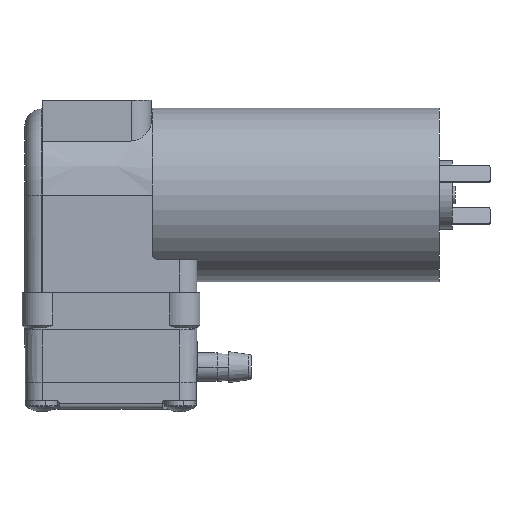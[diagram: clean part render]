
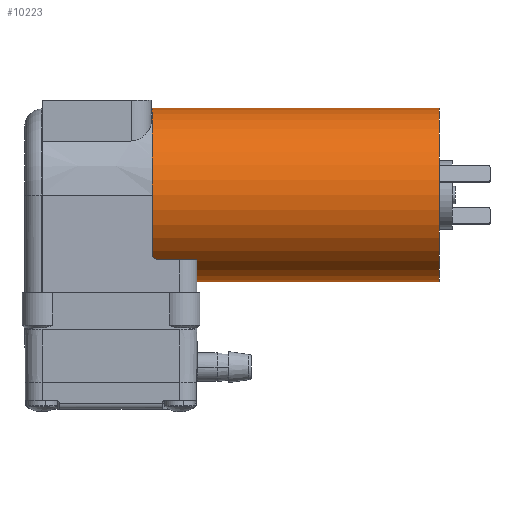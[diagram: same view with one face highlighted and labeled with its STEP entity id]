
A CAD part, front view. The second image highlights one B-rep face of the part: STEP entity #10223.
In plain terms, the highlighted cylindrical face has radius 15.1 mm (diameter 30.2 mm), a partial arc.
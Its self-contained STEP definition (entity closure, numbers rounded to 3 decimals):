
#218 = CARTESIAN_POINT ( 'NONE',  ( 7.2, 0., 8.4 ) ) ;
#560 = DIRECTION ( 'NONE',  ( -1., 0., 0. ) ) ;
#2505 = DIRECTION ( 'NONE',  ( -1., 0., 0. ) ) ;
#3010 = CARTESIAN_POINT ( 'NONE',  ( 57.2, 0., 8.4 ) ) ;
#3951 = CIRCLE ( 'NONE', #11728, 15.1 ) ;
#4116 = VERTEX_POINT ( 'NONE', #3010 ) ;
#4369 = DIRECTION ( 'NONE',  ( -1., 0., 0. ) ) ;
#4415 = LINE ( 'NONE', #6694, #6757 ) ;
#4516 = VERTEX_POINT ( 'NONE', #7366 ) ;
#4987 = EDGE_CURVE ( 'NONE', #4116, #4516, #7893, .T. ) ;
#5895 = CARTESIAN_POINT ( 'NONE',  ( 57.2, 0., 23.5 ) ) ;
#6102 = EDGE_CURVE ( 'NONE', #7937, #9497, #3951, .T. ) ;
#6634 = AXIS2_PLACEMENT_3D ( 'NONE', #14130, #2505, #7176 ) ;
#6684 = EDGE_LOOP ( 'NONE', ( #9893, #14474, #10431, #13739 ) ) ;
#6694 = CARTESIAN_POINT ( 'NONE',  ( -8.9, 0., 8.4 ) ) ;
#6757 = VECTOR ( 'NONE', #10175, 1000. ) ;
#7076 = DIRECTION ( 'NONE',  ( 0., 0., -1. ) ) ;
#7176 = DIRECTION ( 'NONE',  ( 0., 0., -1. ) ) ;
#7366 = CARTESIAN_POINT ( 'NONE',  ( 57.2, 0., 38.6 ) ) ;
#7493 = CARTESIAN_POINT ( 'NONE',  ( 7.2, 0., 23.5 ) ) ;
#7828 = FACE_OUTER_BOUND ( 'NONE', #6684, .T. ) ;
#7893 = CIRCLE ( 'NONE', #14450, 15.1 ) ;
#7937 = VERTEX_POINT ( 'NONE', #218 ) ;
#8473 = VECTOR ( 'NONE', #4369, 1000. ) ;
#8676 = DIRECTION ( 'NONE',  ( 0., 0., -1. ) ) ;
#8731 = EDGE_CURVE ( 'NONE', #4516, #9497, #14990, .T. ) ;
#9497 = VERTEX_POINT ( 'NONE', #11858 ) ;
#9731 = EDGE_CURVE ( 'NONE', #4116, #7937, #4415, .T. ) ;
#9893 = ORIENTED_EDGE ( 'NONE', *, *, #4987, .T. ) ;
#10153 = CARTESIAN_POINT ( 'NONE',  ( -8.9, 0., 38.6 ) ) ;
#10175 = DIRECTION ( 'NONE',  ( -1., 0., 0. ) ) ;
#10223 = ADVANCED_FACE ( 'NONE', ( #7828 ), #13616, .T. ) ;
#10431 = ORIENTED_EDGE ( 'NONE', *, *, #6102, .F. ) ;
#11728 = AXIS2_PLACEMENT_3D ( 'NONE', #7493, #560, #8676 ) ;
#11858 = CARTESIAN_POINT ( 'NONE',  ( 7.2, 0., 38.6 ) ) ;
#13616 = CYLINDRICAL_SURFACE ( 'NONE', #6634, 15.1 ) ;
#13739 = ORIENTED_EDGE ( 'NONE', *, *, #9731, .F. ) ;
#14021 = DIRECTION ( 'NONE',  ( -1., 0., 0. ) ) ;
#14130 = CARTESIAN_POINT ( 'NONE',  ( -8.9, 0., 23.5 ) ) ;
#14450 = AXIS2_PLACEMENT_3D ( 'NONE', #5895, #14021, #7076 ) ;
#14474 = ORIENTED_EDGE ( 'NONE', *, *, #8731, .T. ) ;
#14990 = LINE ( 'NONE', #10153, #8473 ) ;
